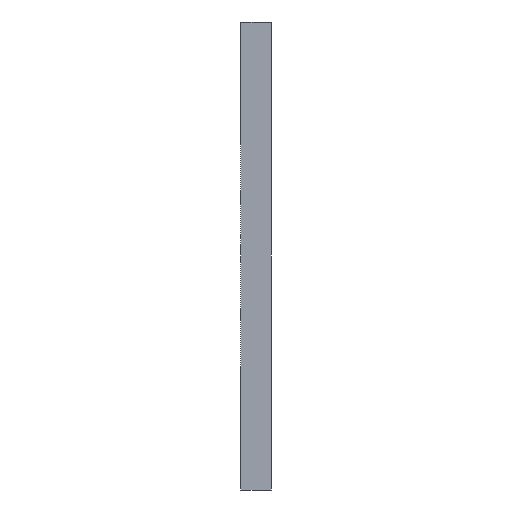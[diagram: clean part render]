
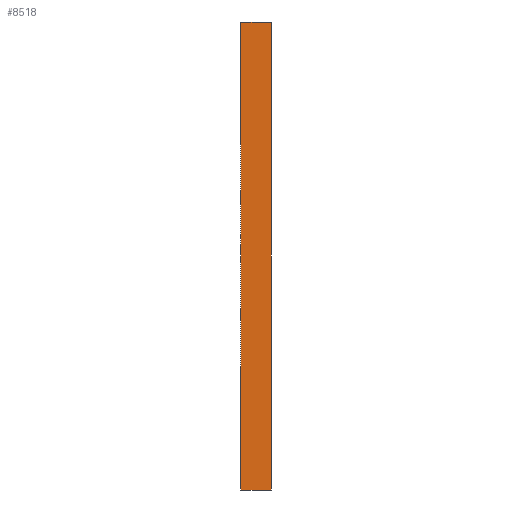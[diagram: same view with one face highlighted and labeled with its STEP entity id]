
A CAD part, left-side view. The second image highlights one B-rep face of the part: STEP entity #8518.
In plain terms, the highlighted planar face has unit normal (-1, 0, 0).
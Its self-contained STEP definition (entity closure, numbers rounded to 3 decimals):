
#339 = PLANE ( 'NONE',  #3436 ) ;
#353 = ORIENTED_EDGE ( 'NONE', *, *, #1905, .T. ) ;
#1009 = CARTESIAN_POINT ( 'NONE',  ( -150., 0., 100. ) ) ;
#1427 = DIRECTION ( 'NONE',  ( 1., 0., 0. ) ) ;
#1712 = EDGE_CURVE ( 'NONE', #2106, #4017, #3287, .T. ) ;
#1905 = EDGE_CURVE ( 'NONE', #2106, #4796, #6833, .T. ) ;
#2029 = VECTOR ( 'NONE', #2060, 1000. ) ;
#2060 = DIRECTION ( 'NONE',  ( 0., 0., 1. ) ) ;
#2106 = VERTEX_POINT ( 'NONE', #9184 ) ;
#2188 = VECTOR ( 'NONE', #5158, 1000. ) ;
#2256 = CARTESIAN_POINT ( 'NONE',  ( -150., 13., -100. ) ) ;
#2651 = ORIENTED_EDGE ( 'NONE', *, *, #1712, .F. ) ;
#2717 = ORIENTED_EDGE ( 'NONE', *, *, #4031, .F. ) ;
#3287 = LINE ( 'NONE', #2256, #8391 ) ;
#3436 = AXIS2_PLACEMENT_3D ( 'NONE', #8430, #1427, #5733 ) ;
#4017 = VERTEX_POINT ( 'NONE', #6810 ) ;
#4031 = EDGE_CURVE ( 'NONE', #4017, #11238, #6001, .T. ) ;
#4796 = VERTEX_POINT ( 'NONE', #11193 ) ;
#5158 = DIRECTION ( 'NONE',  ( 0., -1., 0. ) ) ;
#5321 = ORIENTED_EDGE ( 'NONE', *, *, #11024, .T. ) ;
#5733 = DIRECTION ( 'NONE',  ( 0., 0., -1. ) ) ;
#6001 = LINE ( 'NONE', #9510, #2188 ) ;
#6810 = CARTESIAN_POINT ( 'NONE',  ( -150., 13., 100. ) ) ;
#6833 = LINE ( 'NONE', #11241, #7662 ) ;
#6904 = EDGE_LOOP ( 'NONE', ( #5321, #2717, #2651, #353 ) ) ;
#7573 = DIRECTION ( 'NONE',  ( 0., 0., 1. ) ) ;
#7662 = VECTOR ( 'NONE', #10331, 1000. ) ;
#8391 = VECTOR ( 'NONE', #7573, 1000. ) ;
#8430 = CARTESIAN_POINT ( 'NONE',  ( -150., 13., -100. ) ) ;
#8518 = ADVANCED_FACE ( 'NONE', ( #9964 ), #339, .F. ) ;
#9184 = CARTESIAN_POINT ( 'NONE',  ( -150., 13., -100. ) ) ;
#9510 = CARTESIAN_POINT ( 'NONE',  ( -150., 13., 100. ) ) ;
#9908 = CARTESIAN_POINT ( 'NONE',  ( -150., 0., -100. ) ) ;
#9964 = FACE_OUTER_BOUND ( 'NONE', #6904, .T. ) ;
#10331 = DIRECTION ( 'NONE',  ( 0., -1., 0. ) ) ;
#10824 = LINE ( 'NONE', #9908, #2029 ) ;
#11024 = EDGE_CURVE ( 'NONE', #4796, #11238, #10824, .T. ) ;
#11193 = CARTESIAN_POINT ( 'NONE',  ( -150., 0., -100. ) ) ;
#11238 = VERTEX_POINT ( 'NONE', #1009 ) ;
#11241 = CARTESIAN_POINT ( 'NONE',  ( -150., 13., -100. ) ) ;
